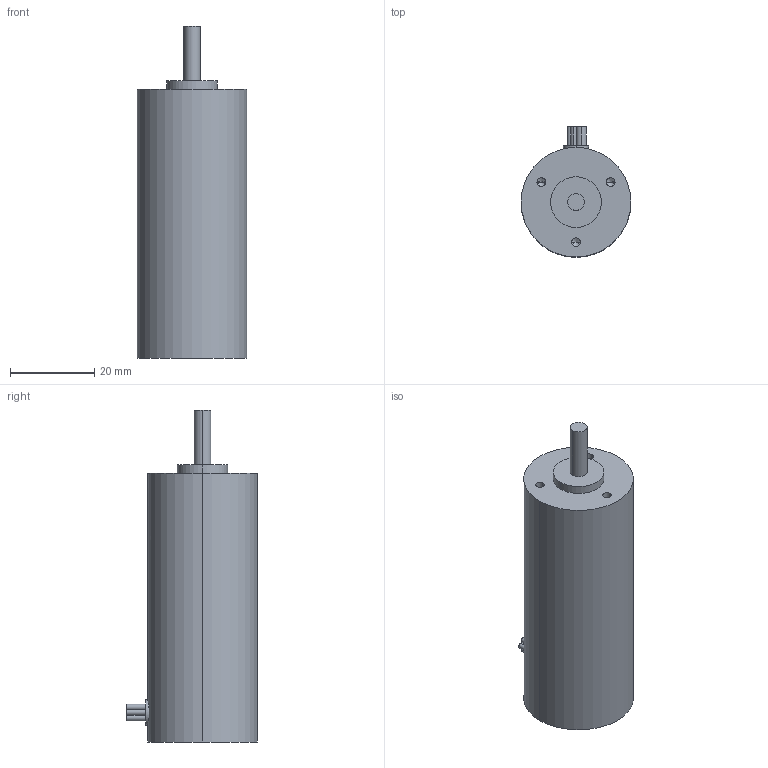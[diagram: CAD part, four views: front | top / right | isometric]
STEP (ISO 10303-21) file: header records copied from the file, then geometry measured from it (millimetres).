
FILE_DESCRIPTION (( 'STEP AP214' ), '1' );
FILE_NAME ('BD-2664.STEP', '2024-10-25T12:06:04', ( '' ), ( '' ), 'SwSTEP 2.0', 'SolidWorks 2024', '' );
FILE_SCHEMA (( 'AUTOMOTIVE_DESIGN' ));
Length unit declared in the file: millimetre
Products named in the file (1): BD-2664
Bounding box: 26 x 31 x 78.7 mm (x, y, z)
Volume: 34227 mm3; surface area: 6689.1 mm2
Topology: 1 solids, 1 shells, 37 faces, 78 edges, 47 vertices
Faces by surface type: cylinder 22, plane 9, cone 6
Entity records: 1045 total; most frequent: CARTESIAN_POINT 219, DIRECTION 188, ORIENTED_EDGE 144, AXIS2_PLACEMENT_3D 80, EDGE_CURVE 72, EDGE_LOOP 47, VERTEX_POINT 47, CIRCLE 42
